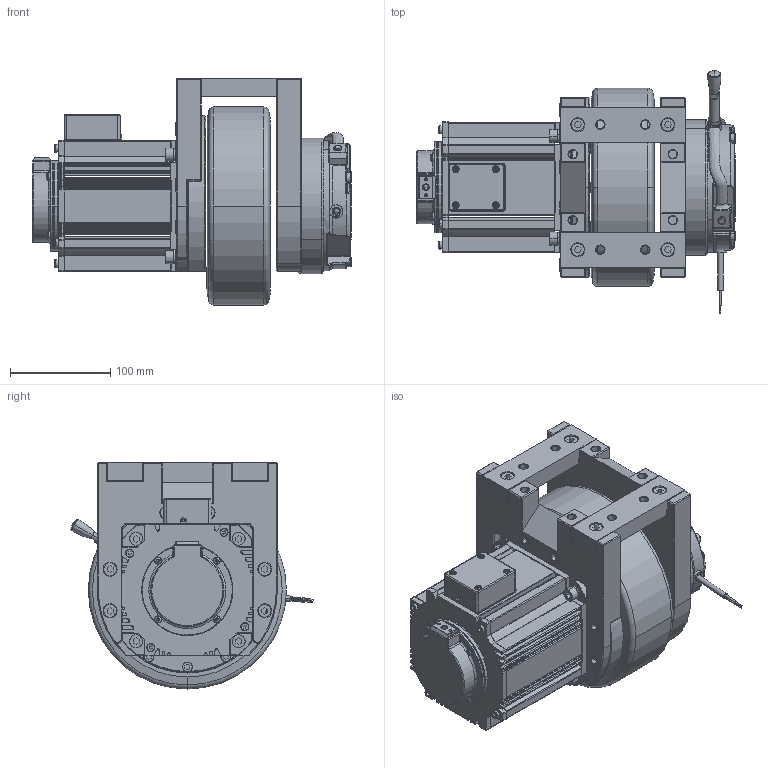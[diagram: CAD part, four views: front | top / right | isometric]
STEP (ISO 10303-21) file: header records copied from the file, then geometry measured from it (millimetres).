
FILE_DESCRIPTION (( 'STEP AP214' ), '1' );
FILE_NAME ('TEC-198P3000SP-32-48H.STEP', '2022-05-25T03:04:25', ( 'admin' ), ( 'Microsoft' ), 'SwSTEP 2.0', 'SolidWorks 2012', '' );
FILE_SCHEMA (( 'AUTOMOTIVE_DESIGN' ));
Length unit declared in the file: millimetre
Products named in the file (1): TEC-198P3000SP-32-48H
Bounding box: 318.5 x 242.2 x 226 mm (x, y, z)
Surface area: 494059.4 mm2 (no closed solid volume)
Topology: 0 solids, 94 shells, 1578 faces, 5111 edges, 3524 vertices
Faces by surface type: plane 625, cylinder 618, bspline 206, cone 89, torus 40
Entity records: 91964 total; most frequent: CARTESIAN_POINT 31066, DIRECTION 9209, ORIENTED_EDGE 8244, EDGE_CURVE 5094, VERTEX_POINT 3524, AXIS2_PLACEMENT_3D 3349, VECTOR 2511, LINE 2511
